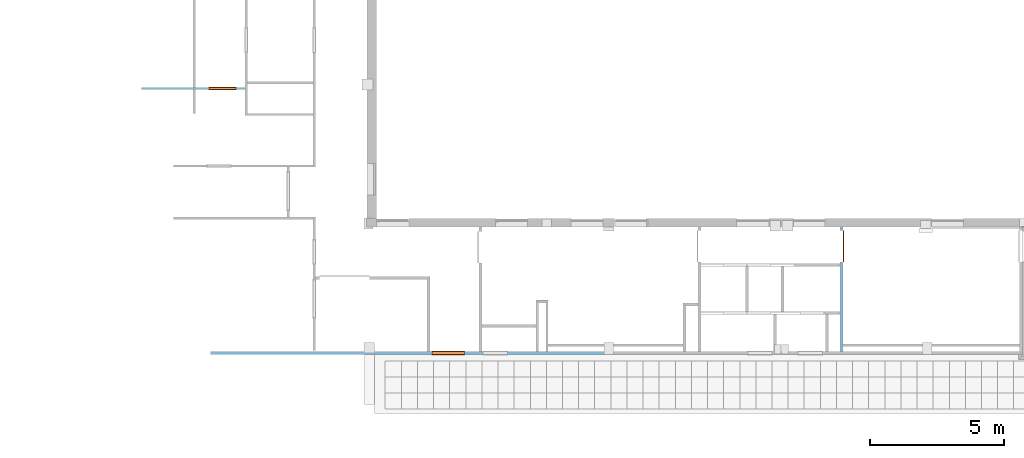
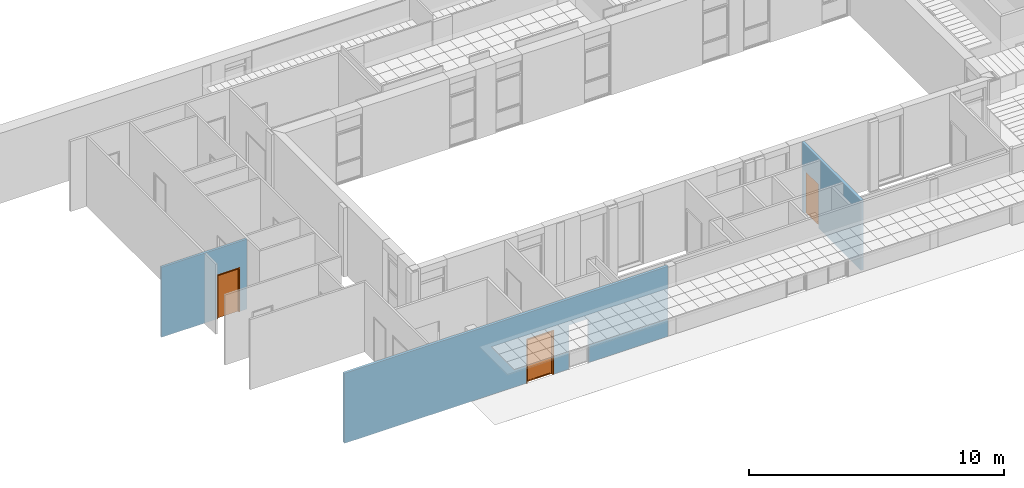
# One storey, part 46 of 60: 3 proxies, 4 openings, plus 3 elements that do not belong to this part.
"""IFC2X3 building model written with IfcOpenShell, lengths in millimetres."""

from ifc_helpers import new_model, entity, si_unit, converted_unit, derived_unit, money_unit, direction, frame, origin_with_axes, origin_2d_with_axis, place, context, subcontext, project, spatial, polyline, rectangle, outline, extrude, open_shell, faceted_brep, surface_model, material, layer, layer_set, layer_usage, type_object, element, fill, save


model = new_model("IFC2X3")

# Units and contexts
model_context = context("Model", 3, precision=0.01, world=origin_with_axes(), true_north=direction((0.0, 1.0)))
body_context = subcontext(model_context, "Body", "Model", "MODEL_VIEW")
ifc_project = project(units=[si_unit("LENGTHUNIT", "METRE", prefix="MILLI"), si_unit("AREAUNIT", "SQUARE_METRE"), si_unit("VOLUMEUNIT", "CUBIC_METRE"), converted_unit("PLANEANGLEUNIT", "DEGREE", entity("IfcPlaneAngleMeasure", 0.0174532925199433), si_unit("PLANEANGLEUNIT", "RADIAN"), dimensions=[0, 0, 0, 0, 0, 0, 0]), money_unit("USD"), converted_unit("TIMEUNIT", "Year", entity("IfcTimeMeasure", 31557600.0), si_unit("TIMEUNIT", "SECOND"), dimensions=[0, 0, 1, 0, 0, 0, 0]), si_unit("MASSUNIT", "GRAM", prefix="KILO"), si_unit("THERMODYNAMICTEMPERATUREUNIT", "DEGREE_CELSIUS"), si_unit("LUMINOUSINTENSITYUNIT", "LUMEN"), si_unit("ENERGYUNIT", "JOULE", prefix="MEGA"), derived_unit("THERMALCONDUCTANCEUNIT", [(si_unit("POWERUNIT", "WATT"), 1), (si_unit("LENGTHUNIT", "METRE"), -1), (si_unit("THERMODYNAMICTEMPERATUREUNIT", "KELVIN"), -1)]), derived_unit("SPECIFICHEATCAPACITYUNIT", [(si_unit("ENERGYUNIT", "JOULE"), 1), (si_unit("MASSUNIT", "GRAM", prefix="KILO"), -1), (si_unit("THERMODYNAMICTEMPERATUREUNIT", "KELVIN"), -1)]), derived_unit("MASSDENSITYUNIT", [(si_unit("MASSUNIT", "GRAM", prefix="KILO"), 1), (si_unit("VOLUMEUNIT", "CUBIC_METRE"), -1)])], contexts=[model_context])

# Site, building, storey
site_placement = place(None, origin_with_axes())
site = spatial("IfcSite", under=ifc_project, at=site_placement, Name="Sitio", CompositionType="ELEMENT")
building_placement = place(site_placement, origin_with_axes())
building = spatial("IfcBuilding", under=site, at=building_placement, Name="Construcción", CompositionType="ELEMENT")
storey_placement = place(building_placement, frame((0.0, 0.0, 3650.0), z_axis=(0.0, 0.0, 1.0), x_axis=(1.0, 0.0, 0.0)))
storey = spatial("IfcBuildingStorey", under=building, at=storey_placement, Name="PLANTA 2ª", CompositionType="ELEMENT", Elevation=3650.0)

# Wall, openings, proxy
ifc_material_1 = material(Name="ARQ_AM246_Arrebossat_De_Guix")
ifc_layer_1 = layer(ifc_material_1, 10.0, ventilated="UNKNOWN")
ifc_material_2 = material(Name="ARQ_CE217_Gero")
ifc_layer_2 = layer(ifc_material_2, 90.0, ventilated="UNKNOWN")
ifc_layer_3 = layer(ifc_material_1, 10.0, ventilated="UNKNOWN")
ifc_layer_set_1 = layer_set([ifc_layer_1, ifc_layer_2, ifc_layer_3], Name="CR Enva Totxana")
ifc_layer_usage_1 = layer_usage(ifc_layer_set_1, "AXIS2", "POSITIVE", 0.0)
wall_type_1 = type_object("IfcWallType", Name="CR Enva Totxana 110", PredefinedType="NOTDEFINED")
wall_1_placement = place(storey_placement, frame((-33871.85959278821, -17083.97582371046, 0.0), z_axis=(0.0, 0.0, 1.0), x_axis=(1.0, 0.0, 0.0)))
wall_1 = element("IfcWallStandardCase", 1, at=wall_1_placement, inside=storey, type_object=wall_type_1, material=ifc_layer_usage_1, Name="MS-201", context=body_context, shape_type="SweptSolid", body=[
    extrude(outline(polyline([(0.0, 0.0), (14643.25058788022, 0.0), (14643.25058788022, 109.9999999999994), (0.0, 109.9999999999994), (0.0, 0.0)])), origin_with_axes(), (0.0, 0.0, 1.0), 3350.0),
])
opening_1_placement = place(wall_1_placement, frame((8849.183761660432, 0.0, 0.0), z_axis=(0.0, 0.0, 1.0), x_axis=(1.0, 0.0, 0.0)))
opening_1 = element("IfcOpeningElement", 2, at=opening_1_placement, cuts=wall_1, Name="PF-04D", context=body_context, shape_type="SweptSolid", body=[
    extrude(rectangle(XDim=1200.000000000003, YDim=2100.0, at=origin_2d_with_axis()), frame((0.0, -109.9999999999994, 1050.0), z_axis=(0.0, -1.0, 0.0), x_axis=(-1.0, 0.0, 0.0)), (0.0, 0.0, -1.0), 329.9999999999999),
    extrude(rectangle(XDim=1244.0, YDim=2122.0, at=origin_2d_with_axis()), frame((0.0, 0.0, 1061.0), z_axis=(0.0, -1.0, 0.0), x_axis=(-1.0, 0.0, 0.0)), (0.0, 0.0, 1.0), 110.0),
    extrude(rectangle(XDim=1244.0, YDim=2122.0, at=origin_2d_with_axis()), frame((0.0, 110.000000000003, 1061.0), z_axis=(0.0, 1.0, 0.0), x_axis=(-1.0, 0.0, 0.0)), (0.0, 0.0, 1.0), 110.0),
])
opening_2_placement = place(wall_1_placement, frame((10599.18376166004, 0.0, 0.0), z_axis=(0.0, 0.0, 1.0), x_axis=(1.0, 0.0, 0.0)))
element("IfcOpeningElement", 3, at=opening_2_placement, cuts=wall_1, Name="PF-05D", context=body_context, shape_type="SweptSolid", body=[
    extrude(rectangle(XDim=899.9999999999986, YDim=2100.0, at=origin_2d_with_axis()), frame((0.0, -109.9999999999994, 1050.0), z_axis=(0.0, -1.0, 0.0), x_axis=(-1.0, 0.0, 0.0)), (0.0, 0.0, -1.0), 329.9999999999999),
    extrude(rectangle(XDim=944.0000000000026, YDim=2122.0, at=origin_2d_with_axis()), frame((0.0, 0.0, 1061.0), z_axis=(0.0, -1.0, 0.0), x_axis=(-1.0, 0.0, 0.0)), (0.0, 0.0, 1.0), 110.0),
    extrude(rectangle(XDim=944.0000000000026, YDim=2122.0, at=origin_2d_with_axis()), frame((0.0, 110.000000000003, 1061.0), z_axis=(0.0, 1.0, 0.0), x_axis=(-1.0, 0.0, 0.0)), (0.0, 0.0, 1.0), 110.0),
])
building_element_proxy_type_1 = type_object("IfcBuildingElementProxyType", Name="Puerta 27", PredefinedType="NOTDEFINED")
proxy_1_placement = place(opening_1_placement, frame((-600.0000000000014, 0.0, 0.0), z_axis=(0.0, 0.0, 1.0), x_axis=(1.0, 0.0, 0.0)))
proxy_1 = element("IfcBuildingElementProxy", 4, at=proxy_1_placement, inside=storey, type_object=building_element_proxy_type_1, Name="PF-04D", context=body_context, shape_type="SurfaceModel", body=[
    faceted_brep([(1222.000000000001, -18.99999999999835, 0.0), (1172.000000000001, -18.99999999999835, 0.0), (1172.000000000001, 0.0, 0.0), (1222.000000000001, 0.0, 0.0), (1222.000000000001, -18.99999999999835, 2122.0), (1172.000000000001, -18.99999999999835, 2072.0), (1172.000000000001, 0.0, 2072.0), (1222.000000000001, 0.0, 2122.0)], [[[0, 1, 2, 3]], [[0, 4, 5, 1]], [[1, 5, 6, 2]], [[3, 2, 6, 7]], [[4, 0, 3, 7]], [[5, 4, 7, 6]]]),
    faceted_brep([(-21.99999999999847, -18.99999999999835, 2122.0), (28.00000000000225, -18.99999999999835, 2072.0), (28.00000000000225, 0.0, 2072.0), (-21.99999999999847, 0.0, 2122.0), (-21.99999999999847, -18.99999999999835, 0.0), (28.00000000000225, -18.99999999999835, 0.0), (28.00000000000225, 0.0, 0.0), (-21.99999999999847, 0.0, 0.0)], [[[0, 1, 2, 3]], [[0, 4, 5, 1]], [[1, 5, 6, 2]], [[3, 2, 6, 7]], [[4, 0, 3, 7]], [[5, 4, 7, 6]]]),
    faceted_brep([(1222.000000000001, -18.99999999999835, 2122.0), (1172.000000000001, -18.99999999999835, 2072.0), (1172.000000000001, 0.0, 2072.0), (1222.000000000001, 0.0, 2122.0), (-21.99999999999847, -18.99999999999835, 2122.0), (28.00000000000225, -18.99999999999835, 2072.0), (28.00000000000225, 0.0, 2072.0), (-21.99999999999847, 0.0, 2122.0)], [[[0, 1, 2, 3]], [[0, 4, 5, 1]], [[1, 5, 6, 2]], [[3, 2, 6, 7]], [[4, 0, 3, 7]], [[5, 4, 7, 6]]]),
    faceted_brep([(1222.000000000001, 129.0000000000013, 0.0), (1222.000000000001, 110.000000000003, 0.0), (1172.000000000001, 110.000000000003, 0.0), (1172.000000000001, 129.0000000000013, 0.0), (1222.000000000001, 129.0000000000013, 2122.0), (1222.000000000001, 110.000000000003, 2122.0), (1172.000000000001, 110.000000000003, 2072.0), (1172.000000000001, 129.0000000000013, 2072.0)], [[[0, 1, 2, 3]], [[4, 5, 1, 0]], [[1, 5, 6, 2]], [[3, 2, 6, 7]], [[0, 3, 7, 4]], [[7, 6, 5, 4]]]),
    faceted_brep([(-21.99999999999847, 129.0000000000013, 2122.0), (-21.99999999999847, 110.000000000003, 2122.0), (28.00000000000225, 110.000000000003, 2072.0), (28.00000000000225, 129.0000000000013, 2072.0), (-21.99999999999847, 129.0000000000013, 0.0), (-21.99999999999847, 110.000000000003, 0.0), (28.00000000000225, 110.000000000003, 0.0), (28.00000000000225, 129.0000000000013, 0.0)], [[[0, 1, 2, 3]], [[4, 5, 1, 0]], [[1, 5, 6, 2]], [[3, 2, 6, 7]], [[0, 3, 7, 4]], [[7, 6, 5, 4]]]),
    faceted_brep([(1222.000000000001, 129.0000000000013, 2122.0), (1222.000000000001, 110.000000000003, 2122.0), (1172.000000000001, 110.000000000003, 2072.0), (1172.000000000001, 129.0000000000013, 2072.0), (-21.99999999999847, 129.0000000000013, 2122.0), (-21.99999999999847, 110.000000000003, 2122.0), (28.00000000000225, 110.000000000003, 2072.0), (28.00000000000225, 129.0000000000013, 2072.0)], [[[0, 1, 2, 3]], [[4, 5, 1, 0]], [[1, 5, 6, 2]], [[3, 2, 6, 7]], [[0, 3, 7, 4]], [[7, 6, 5, 4]]]),
    faceted_brep([(1160.0, 70.00000000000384, 0.0), (1160.0, 0.0, 0.0), (1160.0, 0.0, 2060.0), (1160.0, 70.00000000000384, 2060.0), (1172.000000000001, 70.00000000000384, 0.0), (1172.000000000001, 110.000000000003, 0.0), (1200.000000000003, 110.000000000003, 0.0), (1200.000000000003, 0.0, 0.0), (1200.000000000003, 0.0, 2060.0), (1172.000000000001, 70.00000000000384, 2060.0), (1200.000000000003, 110.000000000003, 2060.0), (1172.000000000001, 110.000000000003, 2060.0)], [[[0, 1, 2, 3]], [[4, 5, 6, 7, 1, 0]], [[1, 7, 8, 2]], [[9, 3, 2, 8, 10, 11]], [[9, 4, 0, 3]], [[11, 5, 4, 9]], [[11, 10, 6, 5]], [[6, 10, 8, 7]]]),
    faceted_brep([(28.00000000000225, 70.00000000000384, 2060.0), (28.00000000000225, 110.000000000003, 2060.0), (0.0, 110.000000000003, 2060.0), (0.0, 0.0, 2060.0), (40.0000000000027, 0.0, 2060.0), (40.0000000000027, 70.00000000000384, 2060.0), (28.00000000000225, 70.00000000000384, 0.0), (28.00000000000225, 110.000000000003, 0.0), (0.0, 110.000000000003, 0.0), (0.0, 0.0, 0.0), (40.0000000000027, 0.0, 0.0), (40.0000000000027, 70.00000000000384, 0.0)], [[[0, 1, 2, 3, 4, 5]], [[0, 6, 7, 1]], [[7, 8, 2, 1]], [[2, 8, 9, 3]], [[3, 9, 10, 4]], [[5, 4, 10, 11]], [[5, 11, 6, 0]], [[6, 11, 10, 9, 8, 7]]]),
    faceted_brep([(1172.000000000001, 110.000000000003, 2072.0), (28.00000000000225, 110.000000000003, 2072.0), (28.00000000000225, 110.000000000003, 2060.0), (0.0, 110.000000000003, 2060.0), (0.0, 110.000000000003, 2100.0), (1200.000000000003, 110.000000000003, 2100.0), (1200.000000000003, 110.000000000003, 2060.0), (1172.000000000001, 110.000000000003, 2060.0), (1172.000000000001, 70.00000000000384, 2072.0), (28.00000000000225, 70.00000000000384, 2072.0), (28.00000000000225, 70.00000000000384, 2060.0), (40.0000000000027, 70.00000000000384, 2060.0), (40.0000000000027, 0.0, 2060.0), (0.0, 0.0, 2060.0), (0.0, 0.0, 2100.0), (1200.000000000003, 0.0, 2100.0), (1200.000000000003, 0.0, 2060.0), (1172.000000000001, 70.00000000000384, 2060.0), (1160.0, 0.0, 2060.0), (1160.0, 70.00000000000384, 2060.0)], [[[0, 1, 2, 3, 4, 5, 6, 7]], [[0, 8, 9, 1]], [[1, 9, 10, 2]], [[10, 11, 12, 13, 3, 2]], [[4, 3, 13, 14]], [[5, 4, 14, 15]], [[6, 5, 15, 16]], [[17, 7, 6, 16, 18, 19]], [[7, 17, 8, 0]], [[10, 9, 8, 17, 19, 11]], [[19, 18, 12, 11]], [[12, 18, 16, 15, 14, 13]]]),
    faceted_brep([(28.00000000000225, 110.000000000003, 49.99999999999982), (78.00000000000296, 110.000000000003, 49.99999999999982), (78.00000000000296, 70.00000000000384, 49.99999999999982), (28.00000000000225, 70.00000000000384, 49.99999999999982), (28.00000000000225, 110.000000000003, 2022.000000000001), (78.00000000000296, 110.000000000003, 2022.000000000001), (78.00000000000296, 70.00000000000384, 2022.000000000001), (28.00000000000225, 70.00000000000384, 2022.000000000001)], [[[0, 1, 2, 3]], [[0, 4, 5, 1]], [[1, 5, 6, 2]], [[3, 2, 6, 7]], [[4, 0, 3, 7]], [[5, 4, 7, 6]]]),
    faceted_brep([(1172.000000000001, 110.000000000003, 49.99999999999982), (1172.000000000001, 110.000000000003, 2022.000000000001), (1172.000000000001, 70.00000000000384, 2022.000000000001), (1172.000000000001, 70.00000000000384, 49.99999999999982), (1122.0, 110.000000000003, 49.99999999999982), (1122.0, 110.000000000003, 2022.000000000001), (1122.0, 70.00000000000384, 2022.000000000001), (1122.0, 70.00000000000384, 49.99999999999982)], [[[0, 1, 2, 3]], [[0, 4, 5, 1]], [[1, 5, 6, 2]], [[3, 2, 6, 7]], [[4, 0, 3, 7]], [[5, 4, 7, 6]]]),
    faceted_brep([(28.00000000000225, 110.000000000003, 0.0), (1172.000000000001, 110.000000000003, 0.0), (1172.000000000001, 70.00000000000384, 0.0), (28.00000000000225, 70.00000000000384, 0.0), (28.00000000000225, 110.000000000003, 49.99999999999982), (78.00000000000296, 110.000000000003, 49.99999999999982), (1122.0, 110.000000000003, 49.99999999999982), (1172.000000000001, 110.000000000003, 49.99999999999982), (1172.000000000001, 70.00000000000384, 49.99999999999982), (1122.0, 70.00000000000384, 49.99999999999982), (78.00000000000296, 70.00000000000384, 49.99999999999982), (28.00000000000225, 70.00000000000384, 49.99999999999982)], [[[0, 1, 2, 3]], [[0, 4, 5, 6, 7, 1]], [[1, 7, 8, 2]], [[3, 2, 8, 9, 10, 11]], [[4, 0, 3, 11]], [[5, 4, 11, 10]], [[6, 5, 10, 9]], [[7, 6, 9, 8]]]),
    faceted_brep([(28.00000000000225, 110.000000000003, 2072.0), (28.00000000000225, 110.000000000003, 2022.000000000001), (28.00000000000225, 70.00000000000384, 2022.000000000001), (28.00000000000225, 70.00000000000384, 2072.0), (1172.000000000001, 110.000000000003, 2072.0), (1172.000000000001, 110.000000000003, 2022.000000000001), (1122.0, 110.000000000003, 2022.000000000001), (78.00000000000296, 110.000000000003, 2022.000000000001), (78.00000000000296, 70.00000000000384, 2022.000000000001), (1122.0, 70.00000000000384, 2022.000000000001), (1172.000000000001, 70.00000000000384, 2022.000000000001), (1172.000000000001, 70.00000000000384, 2072.0)], [[[0, 1, 2, 3]], [[0, 4, 5, 6, 7, 1]], [[1, 7, 8, 2]], [[3, 2, 8, 9, 10, 11]], [[4, 0, 3, 11]], [[5, 4, 11, 10]], [[6, 5, 10, 9]], [[7, 6, 9, 8]]]),
    surface_model("IfcShellBasedSurfaceModel", [(78.00000000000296, 96.00000000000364, 49.99999999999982), (78.00000000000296, 96.00000000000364, 2022.000000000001), (1122.0, 96.00000000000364, 2022.000000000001), (1122.0, 96.00000000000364, 49.99999999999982)], [open_shell([[[0, 1, 2, 3]]])]),
    surface_model("IfcShellBasedSurfaceModel", [(78.00000000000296, 84.00000000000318, 49.99999999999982), (1122.0, 84.00000000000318, 49.99999999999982), (1122.0, 84.00000000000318, 2022.000000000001), (78.00000000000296, 84.00000000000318, 2022.000000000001)], [open_shell([[[0, 1, 2, 3]]])]),
])
fill(opening_1, proxy_1)

# Wall, opening, proxy
ifc_layer_usage_2 = layer_usage(ifc_layer_set_1, "AXIS2", "POSITIVE", -110.0)
wall_2_placement = place(storey_placement, frame((-10437.89402518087, -17083.97582371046, 0.0), z_axis=(0.0, 0.0, 1.0), x_axis=(0.0, 1.0, 0.0)))
wall_2 = element("IfcWallStandardCase", 5, at=wall_2_placement, inside=storey, type_object=wall_type_1, material=ifc_layer_usage_2, Name="MS-201", context=body_context, shape_type="SweptSolid", body=[
    extrude(outline(polyline([(109.9999999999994, -109.9999999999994), (4744.999999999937, -109.9999999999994), (4744.999999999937, 0.0), (109.9999999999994, 0.0), (109.9999999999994, -109.9999999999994)])), origin_with_axes(), (0.0, 0.0, 1.0), 3350.0),
])
opening_3_placement = place(wall_2_placement, frame((4023.999835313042, 0.0, 0.0), z_axis=(0.0, 0.0, 1.0), x_axis=(1.0, 0.0, 0.0)))
opening_3 = element("IfcOpeningElement", 6, at=opening_3_placement, cuts=wall_2, Name="PF-13D", context=body_context, shape_type="SweptSolid", body=[
    extrude(rectangle(XDim=1174.000000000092, YDim=2100.0, at=origin_2d_with_axis()), frame((0.0, -109.9999999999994, 1050.0), z_axis=(0.0, 1.0, 0.0), x_axis=(-1.0, 0.0, 0.0)), (0.0, 0.0, 1.0), 329.9999999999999),
])
building_element_proxy_type_2 = type_object("IfcBuildingElementProxyType", Name="Puerta Corredera Exterior 27", PredefinedType="NOTDEFINED")
proxy_2_placement = place(opening_3_placement, frame((587.0000000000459, 0.0, 0.0), z_axis=(0.0, 0.0, 1.0), x_axis=(-1.0, 0.0, 0.0)))
proxy_2 = element("IfcBuildingElementProxy", 7, at=proxy_2_placement, inside=storey, type_object=building_element_proxy_type_2, Name="PF-13D", context=body_context, shape_type="SurfaceModel", body=[
    faceted_brep([(1174.000000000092, 154.9999999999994, 100.0000000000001), (1174.000000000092, 115.0000000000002, 100.0000000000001), (1074.000000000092, 115.0000000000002, 100.0000000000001), (1074.000000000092, 154.9999999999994, 100.0000000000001), (1174.000000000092, 154.9999999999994, 2000.0), (1174.000000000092, 115.0000000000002, 2000.0), (1074.000000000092, 115.0000000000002, 2000.0), (1074.000000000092, 154.9999999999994, 2000.0)], [[[0, 1, 2, 3]], [[4, 5, 1, 0]], [[1, 5, 6, 2]], [[3, 2, 6, 7]], [[0, 3, 7, 4]], [[7, 6, 5, 4]]]),
    faceted_brep([(0.0, 154.9999999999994, 100.0000000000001), (0.0, 115.0000000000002, 100.0000000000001), (0.0, 115.0000000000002, 2000.0), (0.0, 154.9999999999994, 2000.0), (99.99999999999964, 154.9999999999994, 100.0000000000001), (99.99999999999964, 115.0000000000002, 100.0000000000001), (99.99999999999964, 115.0000000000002, 2000.0), (99.99999999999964, 154.9999999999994, 2000.0)], [[[0, 1, 2, 3]], [[4, 5, 1, 0]], [[1, 5, 6, 2]], [[3, 2, 6, 7]], [[0, 3, 7, 4]], [[7, 6, 5, 4]]]),
    faceted_brep([(1174.000000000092, 154.9999999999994, 0.0), (1174.000000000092, 115.0000000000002, 0.0), (0.0, 115.0000000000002, 0.0), (0.0, 154.9999999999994, 0.0), (1174.000000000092, 154.9999999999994, 100.0000000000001), (1174.000000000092, 115.0000000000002, 100.0000000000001), (1074.000000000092, 115.0000000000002, 100.0000000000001), (99.99999999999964, 115.0000000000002, 100.0000000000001), (0.0, 115.0000000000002, 100.0000000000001), (0.0, 154.9999999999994, 100.0000000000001), (99.99999999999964, 154.9999999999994, 100.0000000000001), (1074.000000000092, 154.9999999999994, 100.0000000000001)], [[[0, 1, 2, 3]], [[4, 5, 1, 0]], [[1, 5, 6, 7, 8, 2]], [[3, 2, 8, 9]], [[0, 3, 9, 10, 11, 4]], [[11, 6, 5, 4]], [[10, 7, 6, 11]], [[9, 8, 7, 10]]]),
    faceted_brep([(1174.000000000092, 154.9999999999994, 2100.0), (1174.000000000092, 115.0000000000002, 2100.0), (1174.000000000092, 115.0000000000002, 2000.0), (1174.000000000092, 154.9999999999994, 2000.0), (0.0, 154.9999999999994, 2100.0), (0.0, 115.0000000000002, 2100.0), (0.0, 115.0000000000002, 2000.0), (99.99999999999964, 115.0000000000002, 2000.0), (1074.000000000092, 115.0000000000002, 2000.0), (1074.000000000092, 154.9999999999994, 2000.0), (99.99999999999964, 154.9999999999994, 2000.0), (0.0, 154.9999999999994, 2000.0)], [[[0, 1, 2, 3]], [[4, 5, 1, 0]], [[1, 5, 6, 7, 8, 2]], [[3, 2, 8, 9]], [[0, 3, 9, 10, 11, 4]], [[11, 6, 5, 4]], [[10, 7, 6, 11]], [[9, 8, 7, 10]]]),
    surface_model("IfcShellBasedSurfaceModel", [(1074.000000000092, 141.0, 100.0000000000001), (99.99999999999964, 141.0, 100.0000000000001), (99.99999999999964, 141.0, 2000.0), (1074.000000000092, 141.0, 2000.0)], [open_shell([[[0, 1, 2, 3]]])]),
    surface_model("IfcShellBasedSurfaceModel", [(1074.000000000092, 128.9999999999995, 100.0000000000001), (1074.000000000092, 128.9999999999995, 2000.0), (99.99999999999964, 128.9999999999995, 2000.0), (99.99999999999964, 128.9999999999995, 100.0000000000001)], [open_shell([[[0, 1, 2, 3]]])]),
])
fill(opening_3, proxy_2)

ifc_layer_4 = layer(ifc_material_1, 10.0, ventilated="UNKNOWN")
ifc_layer_5 = layer(ifc_material_2, 70.0, ventilated="UNKNOWN")
ifc_layer_6 = layer(ifc_material_1, 10.0, ventilated="UNKNOWN")
ifc_layer_set_2 = layer_set([ifc_layer_4, ifc_layer_5, ifc_layer_6], Name="CR Enva Totxaneta")
ifc_layer_usage_3 = layer_usage(ifc_layer_set_2, "AXIS2", "POSITIVE", 0.0)
wall_type_2 = type_object("IfcWallType", Name="CR Enva Totxaneta 90", PredefinedType="NOTDEFINED")
wall_3_placement = place(storey_placement, frame((-32498.65775403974, -7134.75666371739, 0.0), z_axis=(0.0, 0.0, 1.0), x_axis=(-1.0, 0.0, 0.0)))
wall_3 = element("IfcWallStandardCase", 8, at=wall_3_placement, inside=storey, type_object=wall_type_2, material=ifc_layer_usage_3, Name="MS-203", context=body_context, shape_type="SweptSolid", body=[
    extrude(outline(polyline([(90.00000000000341, 0.0), (3952.150607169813, 0.0), (3952.150607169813, 89.99999999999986), (90.00000000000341, 89.99999999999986), (90.00000000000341, 0.0)])), origin_with_axes(), (0.0, 0.0, 1.0), 3350.0),
])
opening_4_placement = place(wall_3_placement, frame((935.0857217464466, 0.0, 0.0), z_axis=(0.0, 0.0, 1.0), x_axis=(1.0, 0.0, 0.0)))
opening_4 = element("IfcOpeningElement", 9, at=opening_4_placement, cuts=wall_3, Name="PF-24D", context=body_context, shape_type="SweptSolid", body=[
    extrude(rectangle(XDim=1000.0, YDim=2100.0, at=origin_2d_with_axis()), frame((0.0, 89.99999999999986, 1049.999999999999), z_axis=(0.0, -1.0, 0.0), x_axis=(-1.0, 0.0, 0.0)), (0.0, 0.0, 1.0), 270.0),
    extrude(rectangle(XDim=1043.999999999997, YDim=2122.000000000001, at=origin_2d_with_axis()), frame((0.0, 89.99999999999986, 1061.0), z_axis=(0.0, -1.0, 0.0), x_axis=(-1.0, 0.0, 0.0)), (0.0, 0.0, -1.0), 90.0),
    extrude(rectangle(XDim=1043.999999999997, YDim=2122.0, at=origin_2d_with_axis()), frame((0.0, 0.0, 1061.0), z_axis=(0.0, 1.0, 0.0), x_axis=(-1.0, 0.0, 0.0)), (0.0, 0.0, -1.0), 90.0),
])
proxy_3_placement = place(opening_4_placement, frame((500.0, 0.0, 0.0), z_axis=(0.0, 0.0, 1.0), x_axis=(-1.0, 0.0, 0.0)))
proxy_3 = element("IfcBuildingElementProxy", 10, at=proxy_3_placement, inside=storey, type_object=building_element_proxy_type_1, Name="PF-24D", context=body_context, shape_type="Brep", body=[
    faceted_brep([(-21.99999999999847, -109.0, 0.0), (-21.99999999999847, -89.99999999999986, 0.0), (27.99999999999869, -89.99999999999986, 0.0), (27.99999999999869, -109.0, 0.0), (-21.99999999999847, -109.0, 2122.0), (-21.99999999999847, -89.99999999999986, 2122.0), (27.99999999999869, -89.99999999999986, 2072.0), (27.99999999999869, -109.0, 2072.0)], [[[0, 1, 2, 3]], [[4, 5, 1, 0]], [[1, 5, 6, 2]], [[3, 2, 6, 7]], [[0, 3, 7, 4]], [[7, 6, 5, 4]]]),
    faceted_brep([(1021.999999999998, -109.0000000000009, 2122.0), (1021.999999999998, -90.00000000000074, 2122.0), (972.0000000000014, -90.00000000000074, 2072.0), (972.0000000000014, -109.0000000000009, 2072.0), (1021.999999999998, -109.0, 0.0), (1021.999999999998, -89.99999999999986, 0.0), (972.0000000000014, -89.99999999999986, 0.0), (972.0000000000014, -109.0, 0.0)], [[[0, 1, 2, 3]], [[4, 5, 1, 0]], [[1, 5, 6, 2]], [[3, 2, 6, 7]], [[0, 3, 7, 4]], [[7, 6, 5, 4]]]),
    faceted_brep([(-21.99999999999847, -109.0, 2122.0), (-21.99999999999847, -89.99999999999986, 2122.0), (27.99999999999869, -89.99999999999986, 2072.0), (27.99999999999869, -109.0, 2072.0), (1021.999999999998, -109.0000000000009, 2122.0), (1021.999999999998, -90.00000000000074, 2122.0), (972.0000000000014, -90.00000000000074, 2072.0), (972.0000000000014, -109.0000000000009, 2072.0)], [[[0, 1, 2, 3]], [[4, 5, 1, 0]], [[1, 5, 6, 2]], [[3, 2, 6, 7]], [[0, 3, 7, 4]], [[7, 6, 5, 4]]]),
    faceted_brep([(-21.99999999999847, 19.00000000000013, 0.0), (27.99999999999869, 19.00000000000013, 0.0), (27.99999999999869, 0.0, 0.0), (-21.99999999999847, 0.0, 0.0), (-21.99999999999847, 19.00000000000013, 2122.0), (27.99999999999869, 19.00000000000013, 2072.0), (27.99999999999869, 0.0, 2072.0), (-21.99999999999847, 0.0, 2122.0)], [[[0, 1, 2, 3]], [[0, 4, 5, 1]], [[1, 5, 6, 2]], [[3, 2, 6, 7]], [[4, 0, 3, 7]], [[5, 4, 7, 6]]]),
    faceted_brep([(1021.999999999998, 18.99999999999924, 2122.0), (972.0000000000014, 18.99999999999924, 2072.0), (972.0000000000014, 0.0, 2072.0), (1021.999999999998, 0.0, 2122.0), (1021.999999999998, 19.00000000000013, 0.0), (972.0000000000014, 19.00000000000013, 0.0), (972.0000000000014, 0.0, 0.0), (1021.999999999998, 0.0, 0.0)], [[[0, 1, 2, 3]], [[0, 4, 5, 1]], [[1, 5, 6, 2]], [[3, 2, 6, 7]], [[4, 0, 3, 7]], [[5, 4, 7, 6]]]),
    faceted_brep([(-21.99999999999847, 19.00000000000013, 2122.0), (27.99999999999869, 19.00000000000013, 2072.0), (27.99999999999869, 0.0, 2072.0), (-21.99999999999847, 0.0, 2122.0), (1021.999999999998, 18.99999999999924, 2122.0), (972.0000000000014, 18.99999999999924, 2072.0), (972.0000000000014, 0.0, 2072.0), (1021.999999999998, 0.0, 2122.0)], [[[0, 1, 2, 3]], [[0, 4, 5, 1]], [[1, 5, 6, 2]], [[3, 2, 6, 7]], [[4, 0, 3, 7]], [[5, 4, 7, 6]]]),
    faceted_brep([(39.99999999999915, -40.00000000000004, 0.0), (39.99999999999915, -40.00000000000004, 2060.0), (39.99999999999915, -89.99999999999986, 2060.0), (39.99999999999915, -89.99999999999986, 0.0), (27.99999999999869, -40.00000000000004, 2060.0), (27.99999999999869, -40.00000000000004, 0.0), (27.99999999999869, 0.0, 2060.0), (0.0, 0.0, 2060.0), (0.0, -89.99999999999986, 2060.0), (0.0, -89.99999999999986, 0.0), (0.0, 0.0, 0.0), (27.99999999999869, 0.0, 0.0)], [[[0, 1, 2, 3]], [[4, 1, 0, 5]], [[4, 6, 7, 8, 2, 1]], [[3, 2, 8, 9]], [[5, 0, 3, 9, 10, 11]], [[6, 4, 5, 11]], [[6, 11, 10, 7]], [[10, 9, 8, 7]]]),
    faceted_brep([(972.0000000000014, -40.00000000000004, 2060.0), (960.0000000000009, -40.00000000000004, 2060.0), (960.0000000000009, -89.99999999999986, 2060.0), (1000.0, -89.99999999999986, 2060.0), (1000.0, 0.0, 2060.0), (972.0000000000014, 0.0, 2060.0), (972.0000000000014, -40.00000000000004, 0.0), (960.0000000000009, -40.00000000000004, 0.0), (960.0000000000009, -89.99999999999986, 0.0), (1000.0, -89.99999999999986, 0.0), (1000.0, 0.0, 0.0), (972.0000000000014, 0.0, 0.0)], [[[0, 1, 2, 3, 4, 5]], [[1, 0, 6, 7]], [[1, 7, 8, 2]], [[3, 2, 8, 9]], [[4, 3, 9, 10]], [[11, 5, 4, 10]], [[0, 5, 11, 6]], [[6, 11, 10, 9, 8, 7]]]),
    faceted_brep([(27.99999999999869, 0.0, 2072.0), (27.99999999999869, 0.0, 2060.0), (0.0, 0.0, 2060.0), (0.0, 0.0, 2100.0), (1000.0, 0.0, 2100.0), (1000.0, 0.0, 2060.0), (972.0000000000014, 0.0, 2060.0), (972.0000000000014, 0.0, 2072.0), (27.99999999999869, -40.00000000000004, 2072.0), (27.99999999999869, -40.00000000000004, 2060.0), (39.99999999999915, -40.00000000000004, 2060.0), (39.99999999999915, -89.99999999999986, 2060.0), (0.0, -89.99999999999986, 2060.0), (0.0, -89.99999999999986, 2100.0), (1000.0, -89.99999999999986, 2100.0), (1000.0, -89.99999999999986, 2060.0), (972.0000000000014, -40.00000000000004, 2060.0), (960.0000000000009, -89.99999999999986, 2060.0), (960.0000000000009, -40.00000000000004, 2060.0), (972.0000000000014, -40.00000000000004, 2072.0)], [[[0, 1, 2, 3, 4, 5, 6, 7]], [[1, 0, 8, 9]], [[9, 10, 11, 12, 2, 1]], [[2, 12, 13, 3]], [[3, 13, 14, 4]], [[4, 14, 15, 5]], [[16, 6, 5, 15, 17, 18]], [[7, 6, 16, 19]], [[0, 7, 19, 8]], [[16, 18, 10, 9, 8, 19]], [[10, 18, 17, 11]], [[17, 15, 14, 13, 12, 11]]]),
    faceted_brep([(972.0000000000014, 0.0, 0.0), (972.0000000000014, -40.00000000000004, 0.0), (27.99999999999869, -40.00000000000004, 0.0), (27.99999999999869, 0.0, 0.0), (972.0000000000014, 0.0, 2072.0), (972.0000000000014, -40.00000000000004, 2072.0), (27.99999999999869, -40.00000000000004, 2072.0), (27.99999999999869, 0.0, 2072.0)], [[[0, 1, 2, 3]], [[4, 5, 1, 0]], [[1, 5, 6, 2]], [[3, 2, 6, 7]], [[0, 3, 7, 4]], [[7, 6, 5, 4]]]),
])
fill(opening_4, proxy_3)

save(model, "model.ifc")
